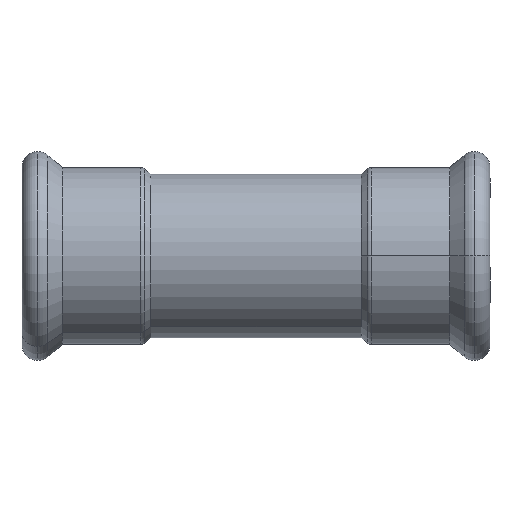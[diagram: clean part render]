
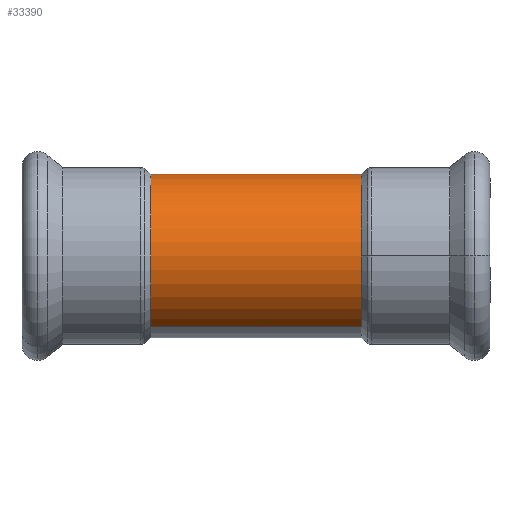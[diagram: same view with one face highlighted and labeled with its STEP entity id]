
A CAD part, front view. The second image highlights one B-rep face of the part: STEP entity #33390.
In plain terms, the highlighted cylindrical face has radius 21 mm (diameter 42 mm), a partial arc.
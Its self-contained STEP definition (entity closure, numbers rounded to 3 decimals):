
#450=CARTESIAN_POINT('',(-50.154,197.131,0.));
#460=DIRECTION('',(0.,1.,0.));
#470=DIRECTION('',(-1.,0.,0.));
#480=AXIS2_PLACEMENT_3D('',#450,#460,#470);
#490=CYLINDRICAL_SURFACE('',#480,21.);
#500=CARTESIAN_POINT('',(-71.154,197.131,0.));
#510=DIRECTION('',(0.,1.,0.));
#520=VECTOR('',#510,1.);
#530=LINE('',#500,#520);
#540=CARTESIAN_POINT('',(-71.154,143.131,0.));
#550=VERTEX_POINT('',#540);
#560=CARTESIAN_POINT('',(-71.154,197.131,0.));
#570=VERTEX_POINT('',#560);
#580=EDGE_CURVE('',#550,#570,#530,.T.);
#600=CARTESIAN_POINT('',(-50.154,197.131,
0.));
#610=DIRECTION('',(0.,1.,0.));
#620=DIRECTION('',(1.,0.,0.));
#630=AXIS2_PLACEMENT_3D('',#600,#610,#620);
#640=CIRCLE('',#630,21.);
#690=CARTESIAN_POINT('',(-29.154,197.131,
0.));
#700=VERTEX_POINT('',#690);
#730=CARTESIAN_POINT('',(-29.154,197.131,
0.));
#740=DIRECTION('',(0.,1.,0.));
#750=VECTOR('',#740,1.);
#760=LINE('',#730,#750);
#770=CARTESIAN_POINT('',(-29.154,143.131,
0.));
#780=VERTEX_POINT('',#770);
#790=EDGE_CURVE('',#780,#700,#760,.T.);
#810=CARTESIAN_POINT('',(-50.154,143.131,
0.));
#820=DIRECTION('',(0.,-1.,0.));
#830=DIRECTION('',(-0.5,0.,
0.866));
#840=AXIS2_PLACEMENT_3D('',#810,#820,#830);
#850=CIRCLE('',#840,21.);
#14850=CARTESIAN_POINT('',(-39.654,143.131,
-18.187));
#14860=VERTEX_POINT('',#14850);
#14890=EDGE_CURVE('',#550,#14860,#850,.T.);
#32360=EDGE_CURVE('',#700,#570,#640,.T.);
#32690=EDGE_CURVE('',#14860,#780,#850,.T.);
#33320=ORIENTED_EDGE('',*,*,#14890,.F.);
#33330=ORIENTED_EDGE('',*,*,#32690,.F.);
#33340=ORIENTED_EDGE('',*,*,#790,.F.);
#33350=ORIENTED_EDGE('',*,*,#32360,.F.);
#33360=ORIENTED_EDGE('',*,*,#580,.T.);
#33370=EDGE_LOOP('',(#33360,#33350,#33340,#33330,#33320));
#33380=FACE_OUTER_BOUND('',#33370,.T.);
#33390=ADVANCED_FACE('',(#33380),#490,.T.);
